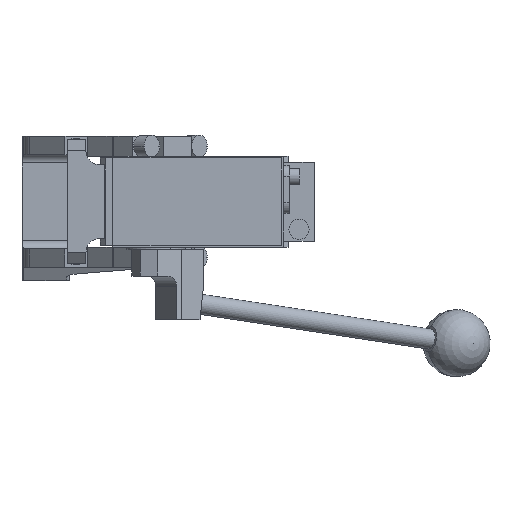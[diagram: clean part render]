
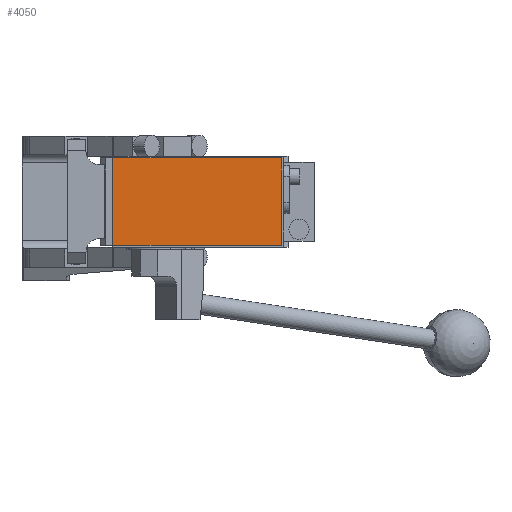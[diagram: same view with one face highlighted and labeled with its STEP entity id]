
A CAD part, front view. The second image highlights one B-rep face of the part: STEP entity #4050.
In plain terms, the highlighted planar face has unit normal (0, -1, 0).
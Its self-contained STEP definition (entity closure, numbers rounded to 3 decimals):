
#380 = CARTESIAN_POINT ( 'NONE',  ( 0., -286.5, 0. ) ) ;
#856 = ORIENTED_EDGE ( 'NONE', *, *, #1579, .T. ) ;
#961 = CARTESIAN_POINT ( 'NONE',  ( -19., -286.5, 26. ) ) ;
#1527 = DIRECTION ( 'NONE',  ( 0., 0., -1. ) ) ;
#1579 = EDGE_CURVE ( 'NONE', #14069, #2228, #14289, .T. ) ;
#1809 = VERTEX_POINT ( 'NONE', #6371 ) ;
#2228 = VERTEX_POINT ( 'NONE', #10215 ) ;
#2723 = LINE ( 'NONE', #6497, #8811 ) ;
#3047 = CARTESIAN_POINT ( 'NONE',  ( -19., -286.5, -26. ) ) ;
#3348 = DIRECTION ( 'NONE',  ( 0., 0., 1. ) ) ;
#3819 = DIRECTION ( 'NONE',  ( 0., -1., 0. ) ) ;
#4050 = ADVANCED_FACE ( 'NONE', ( #14158 ), #6618, .T. ) ;
#4181 = EDGE_CURVE ( 'NONE', #1809, #8996, #14974, .T. ) ;
#4590 = VECTOR ( 'NONE', #3348, 1000. ) ;
#6052 = LINE ( 'NONE', #12220, #4590 ) ;
#6263 = DIRECTION ( 'NONE',  ( -1., 0., 0. ) ) ;
#6371 = CARTESIAN_POINT ( 'NONE',  ( 81., -286.5, 26. ) ) ;
#6497 = CARTESIAN_POINT ( 'NONE',  ( -19., -286.5, 26. ) ) ;
#6519 = VECTOR ( 'NONE', #15005, 1000. ) ;
#6618 = PLANE ( 'NONE',  #10175 ) ;
#7733 = CARTESIAN_POINT ( 'NONE',  ( -19., -286.5, -26. ) ) ;
#8144 = ORIENTED_EDGE ( 'NONE', *, *, #10628, .T. ) ;
#8811 = VECTOR ( 'NONE', #11517, 1000. ) ;
#8996 = VERTEX_POINT ( 'NONE', #961 ) ;
#10100 = EDGE_CURVE ( 'NONE', #2228, #1809, #6052, .T. ) ;
#10175 = AXIS2_PLACEMENT_3D ( 'NONE', #380, #3819, #1527 ) ;
#10215 = CARTESIAN_POINT ( 'NONE',  ( 81., -286.5, -26. ) ) ;
#10628 = EDGE_CURVE ( 'NONE', #8996, #14069, #2723, .T. ) ;
#10703 = ORIENTED_EDGE ( 'NONE', *, *, #4181, .T. ) ;
#11517 = DIRECTION ( 'NONE',  ( 0., 0., -1. ) ) ;
#12220 = CARTESIAN_POINT ( 'NONE',  ( 81., -286.5, 26. ) ) ;
#12759 = CARTESIAN_POINT ( 'NONE',  ( -19., -286.5, 26. ) ) ;
#13087 = VECTOR ( 'NONE', #6263, 1000. ) ;
#14069 = VERTEX_POINT ( 'NONE', #7733 ) ;
#14158 = FACE_OUTER_BOUND ( 'NONE', #14859, .T. ) ;
#14289 = LINE ( 'NONE', #3047, #6519 ) ;
#14327 = ORIENTED_EDGE ( 'NONE', *, *, #10100, .T. ) ;
#14859 = EDGE_LOOP ( 'NONE', ( #8144, #856, #14327, #10703 ) ) ;
#14974 = LINE ( 'NONE', #12759, #13087 ) ;
#15005 = DIRECTION ( 'NONE',  ( 1., 0., 0. ) ) ;
